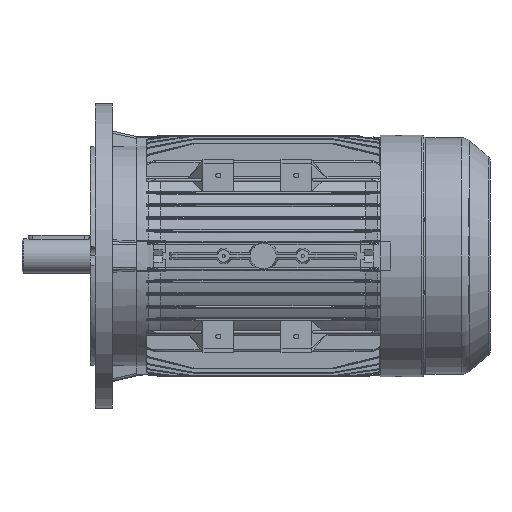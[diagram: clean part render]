
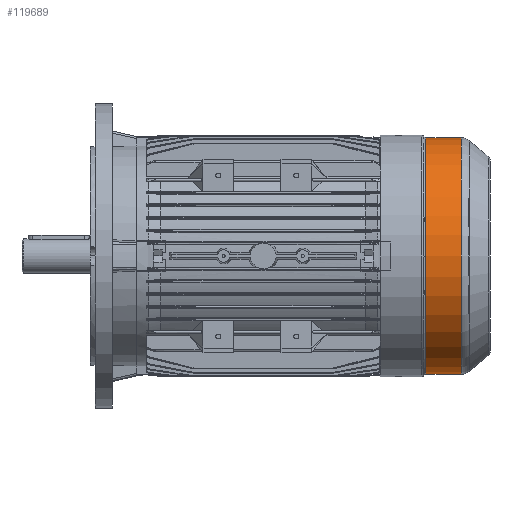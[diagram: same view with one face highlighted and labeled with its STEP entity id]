
A CAD part, front view. The second image highlights one B-rep face of the part: STEP entity #119689.
In plain terms, the highlighted cylindrical face has radius 97 mm (diameter 194 mm), a partial arc.
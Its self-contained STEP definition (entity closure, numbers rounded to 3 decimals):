
#892 = VERTEX_POINT ( 'NONE', #10925 ) ;
#959 = VERTEX_POINT ( 'NONE', #11023 ) ;
#984 = VERTEX_POINT ( 'NONE', #11381 ) ;
#1067 = EDGE_CURVE ( 'NONE', #892, #959, #11899, .T. ) ;
#1163 = VERTEX_POINT ( 'NONE', #12293 ) ;
#1229 = EDGE_CURVE ( 'NONE', #892, #984, #12613, .T. ) ;
#1238 = EDGE_CURVE ( 'NONE', #959, #1163, #12388, .T. ) ;
#10925 = CARTESIAN_POINT ( 'NONE',  ( -37.414, 0., -97. ) ) ;
#11023 = CARTESIAN_POINT ( 'NONE',  ( -37.414, 0., 97. ) ) ;
#11381 = CARTESIAN_POINT ( 'NONE',  ( -66.392, 0., -97. ) ) ;
#11871 = DIRECTION ( 'NONE',  ( 0., 0., 1. ) ) ;
#11874 = DIRECTION ( 'NONE',  ( -1., 0., 0. ) ) ;
#11876 = CARTESIAN_POINT ( 'NONE',  ( -37.414, 0., 0. ) ) ;
#11878 = AXIS2_PLACEMENT_3D ( 'NONE', #11876, #11874, #11871 ) ;
#11899 = CIRCLE ( 'NONE', #11878, 97. ) ;
#12293 = CARTESIAN_POINT ( 'NONE',  ( -66.392, 0., 97. ) ) ;
#12365 = VECTOR ( 'NONE', #12551, 1000. ) ;
#12368 = CARTESIAN_POINT ( 'NONE',  ( -87., 0., -97. ) ) ;
#12388 = LINE ( 'NONE', #12555, #12553 ) ;
#12511 = DIRECTION ( 'NONE',  ( -1., 0., 0. ) ) ;
#12551 = DIRECTION ( 'NONE',  ( -1., 0., 0. ) ) ;
#12553 = VECTOR ( 'NONE', #12511, 1000. ) ;
#12555 = CARTESIAN_POINT ( 'NONE',  ( -87., 0., 97. ) ) ;
#12613 = LINE ( 'NONE', #12368, #12365 ) ;
#92886 = CYLINDRICAL_SURFACE ( 'NONE', #92935, 97. ) ;
#92930 = DIRECTION ( 'NONE',  ( 0., 0., 1. ) ) ;
#92935 = AXIS2_PLACEMENT_3D ( 'NONE', #92946, #92945, #92930 ) ;
#92943 = FACE_OUTER_BOUND ( 'NONE', #119817, .T. ) ;
#92945 = DIRECTION ( 'NONE',  ( -1., 0., 0. ) ) ;
#92946 = CARTESIAN_POINT ( 'NONE',  ( -87., 0., 0. ) ) ;
#93021 = CIRCLE ( 'NONE', #93025, 97. ) ;
#93025 = AXIS2_PLACEMENT_3D ( 'NONE', #93079, #93131, #93129 ) ;
#93079 = CARTESIAN_POINT ( 'NONE',  ( -66.392, 0., 0. ) ) ;
#93129 = DIRECTION ( 'NONE',  ( 0., 0., -1. ) ) ;
#93131 = DIRECTION ( 'NONE',  ( 1., 0., 0. ) ) ;
#119667 = ORIENTED_EDGE ( 'NONE', *, *, #119742, .T. ) ;
#119689 = ADVANCED_FACE ( 'NONE', ( #92943 ), #92886, .T. ) ;
#119698 = ORIENTED_EDGE ( 'NONE', *, *, #1229, .F. ) ;
#119727 = ORIENTED_EDGE ( 'NONE', *, *, #1067, .T. ) ;
#119742 = EDGE_CURVE ( 'NONE', #1163, #984, #93021, .T. ) ;
#119761 = ORIENTED_EDGE ( 'NONE', *, *, #1238, .T. ) ;
#119817 = EDGE_LOOP ( 'NONE', ( #119698, #119727, #119761, #119667 ) ) ;
